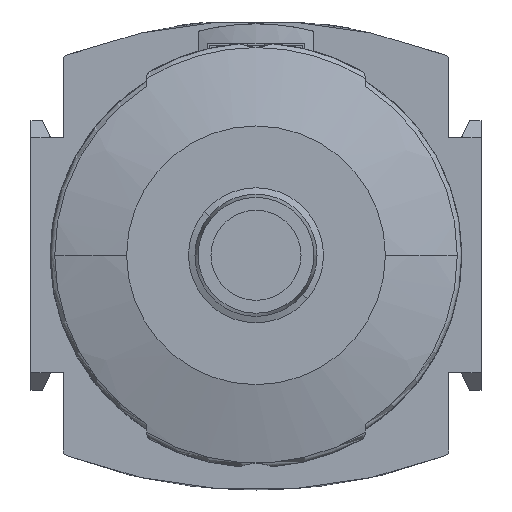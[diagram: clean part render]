
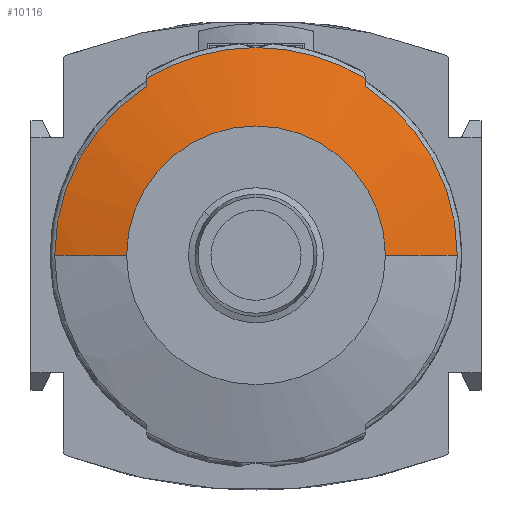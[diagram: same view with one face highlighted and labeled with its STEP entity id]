
A CAD part, front view. The second image highlights one B-rep face of the part: STEP entity #10116.
In plain terms, the highlighted spherical face has radius 102.2 mm.
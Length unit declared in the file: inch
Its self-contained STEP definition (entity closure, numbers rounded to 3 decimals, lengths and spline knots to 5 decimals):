
#8008=SPHERICAL_SURFACE('',#31035,4.02362);
#10116=ADVANCED_FACE('',(#12085),#8008,.T.);
#12085=FACE_OUTER_BOUND('',#13444,.T.);
#13444=EDGE_LOOP('',(#19924,#19925,#19926,#19927,#19928,#19929,#19930,#19931,
#19932));
#13848=CIRCLE('',#30949,3.96757);
#13850=CIRCLE('',#30954,3.96757);
#13873=CIRCLE('',#31002,1.27229);
#13875=CIRCLE('',#31009,1.23253);
#13882=CIRCLE('',#31030,4.02362);
#13883=CIRCLE('',#31031,0.79211);
#13884=CIRCLE('',#31032,4.02362);
#13885=CIRCLE('',#31033,1.23253);
#13886=CIRCLE('',#31034,1.27229);
#19924=ORIENTED_EDGE('',*,*,#25206,.F.);
#19925=ORIENTED_EDGE('',*,*,#25207,.T.);
#19926=ORIENTED_EDGE('',*,*,#25208,.T.);
#19927=ORIENTED_EDGE('',*,*,#25209,.T.);
#19928=ORIENTED_EDGE('',*,*,#25118,.T.);
#19929=ORIENTED_EDGE('',*,*,#25176,.T.);
#19930=ORIENTED_EDGE('',*,*,#25210,.T.);
#19931=ORIENTED_EDGE('',*,*,#25111,.T.);
#19932=ORIENTED_EDGE('',*,*,#25185,.T.);
#22094=VERTEX_POINT('',#49280);
#22096=VERTEX_POINT('',#49301);
#22100=VERTEX_POINT('',#49332);
#22101=VERTEX_POINT('',#49334);
#22127=VERTEX_POINT('',#49522);
#22129=VERTEX_POINT('',#49550);
#22138=VERTEX_POINT('',#49600);
#22139=VERTEX_POINT('',#49602);
#22140=VERTEX_POINT('',#49604);
#25111=EDGE_CURVE('',#22094,#22096,#13848,.T.);
#25118=EDGE_CURVE('',#22101,#22100,#13850,.T.);
#25176=EDGE_CURVE('',#22100,#22127,#13873,.T.);
#25185=EDGE_CURVE('',#22096,#22129,#13875,.T.);
#25206=EDGE_CURVE('',#22138,#22129,#13882,.T.);
#25207=EDGE_CURVE('',#22138,#22139,#13883,.T.);
#25208=EDGE_CURVE('',#22139,#22140,#13884,.T.);
#25209=EDGE_CURVE('',#22140,#22101,#13885,.T.);
#25210=EDGE_CURVE('',#22127,#22094,#13886,.T.);
#30949=AXIS2_PLACEMENT_3D('',#49302,#36128,#36129);
#30954=AXIS2_PLACEMENT_3D('',#49333,#36141,#36142);
#31002=AXIS2_PLACEMENT_3D('',#49523,#36266,#36267);
#31009=AXIS2_PLACEMENT_3D('',#49551,#36286,#36287);
#31030=AXIS2_PLACEMENT_3D('',#49599,#36341,#36342);
#31031=AXIS2_PLACEMENT_3D('',#49601,#36343,#36344);
#31032=AXIS2_PLACEMENT_3D('',#49603,#36345,#36346);
#31033=AXIS2_PLACEMENT_3D('',#49605,#36347,#36348);
#31034=AXIS2_PLACEMENT_3D('',#49606,#36349,#36350);
#31035=AXIS2_PLACEMENT_3D('',#49607,#36351,#36352);
#36128=DIRECTION('',(1.,0.,0.));
#36129=DIRECTION('',(0.,0.,-1.));
#36141=DIRECTION('',(-1.,0.,0.));
#36142=DIRECTION('',(0.,0.,1.));
#36266=DIRECTION('',(0.,-1.,0.));
#36267=DIRECTION('',(0.,0.,1.));
#36286=DIRECTION('',(0.,-1.,0.));
#36287=DIRECTION('',(0.,0.,1.));
#36341=DIRECTION('',(0.,0.,-1.));
#36342=DIRECTION('',(-1.,0.,0.));
#36343=DIRECTION('',(0.,1.,0.));
#36344=DIRECTION('',(0.,0.,1.));
#36345=DIRECTION('',(0.,0.,1.));
#36346=DIRECTION('',(1.,0.,0.));
#36347=DIRECTION('',(0.,-1.,0.));
#36348=DIRECTION('',(0.,0.,1.));
#36349=DIRECTION('',(0.,-1.,0.));
#36350=DIRECTION('',(0.,0.,1.));
#36351=DIRECTION('',(0.,0.,1.));
#36352=DIRECTION('',(1.,0.,0.));
#49280=CARTESIAN_POINT('',(-0.66929,-3.62032,1.08202));
#49301=CARTESIAN_POINT('',(-0.66929,-3.63335,1.03498));
#49302=CARTESIAN_POINT('',(-0.66929,0.19685,0.));
#49332=CARTESIAN_POINT('',(0.66929,-3.62032,1.08202));
#49333=CARTESIAN_POINT('',(0.66929,0.19685,0.));
#49334=CARTESIAN_POINT('',(0.66929,-3.63335,1.03498));
#49522=CARTESIAN_POINT('',(0.,-3.62032,1.27229));
#49523=CARTESIAN_POINT('',(0.,-3.62032,0.));
#49550=CARTESIAN_POINT('',(-1.23253,-3.63335,0.));
#49551=CARTESIAN_POINT('',(0.,-3.63335,0.));
#49599=CARTESIAN_POINT('',(0.,0.19685,0.));
#49600=CARTESIAN_POINT('',(-0.79211,-3.74803,0.));
#49601=CARTESIAN_POINT('',(0.,-3.74803,0.));
#49602=CARTESIAN_POINT('',(0.79211,-3.74803,0.));
#49603=CARTESIAN_POINT('',(0.,0.19685,0.));
#49604=CARTESIAN_POINT('',(1.23253,-3.63335,0.));
#49605=CARTESIAN_POINT('',(0.,-3.63335,0.));
#49606=CARTESIAN_POINT('',(0.,-3.62032,0.));
#49607=CARTESIAN_POINT('',(0.,0.19685,0.));
